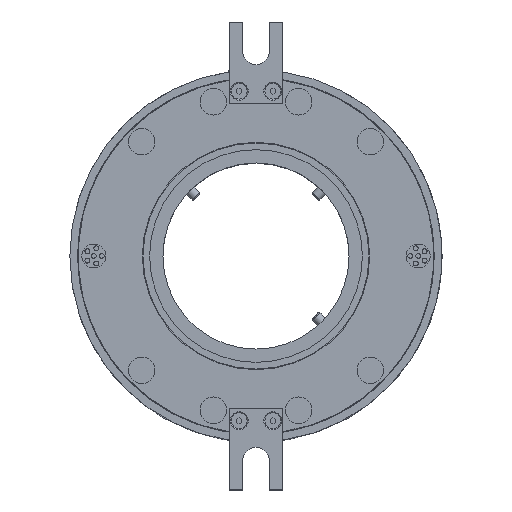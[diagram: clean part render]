
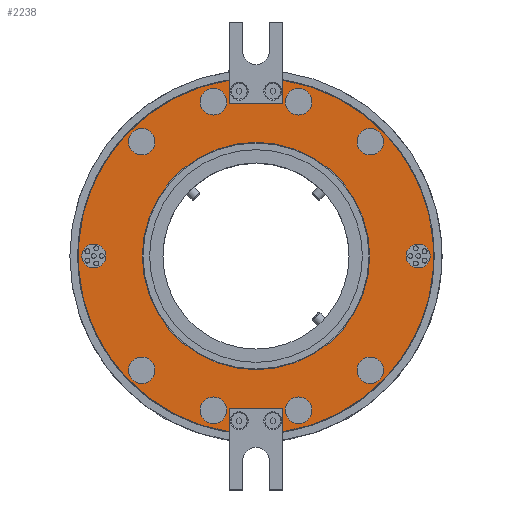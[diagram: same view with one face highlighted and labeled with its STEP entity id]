
A CAD part, top view. The second image highlights one B-rep face of the part: STEP entity #2238.
In plain terms, the highlighted planar face has unit normal (0, 0, 1).
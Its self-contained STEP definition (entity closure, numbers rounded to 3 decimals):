
#288=FACE_BOUND('',#5389,.T.);
#289=FACE_BOUND('',#5390,.T.);
#290=FACE_BOUND('',#5391,.T.);
#291=FACE_BOUND('',#5392,.T.);
#292=FACE_BOUND('',#5393,.T.);
#293=FACE_BOUND('',#5394,.T.);
#294=FACE_BOUND('',#5395,.T.);
#295=FACE_BOUND('',#5396,.T.);
#296=FACE_BOUND('',#5397,.T.);
#297=FACE_BOUND('',#5398,.T.);
#298=FACE_BOUND('',#5399,.T.);
#299=FACE_BOUND('',#5400,.T.);
#648=CIRCLE('',#17529,4.5);
#649=CIRCLE('',#17534,66.9);
#650=CIRCLE('',#17535,66.9);
#651=CIRCLE('',#17540,5.);
#652=CIRCLE('',#17542,5.);
#653=CIRCLE('',#17544,5.);
#654=CIRCLE('',#17546,5.);
#655=CIRCLE('',#17548,4.5);
#656=CIRCLE('',#17550,5.);
#657=CIRCLE('',#17552,5.);
#658=CIRCLE('',#17554,5.);
#659=CIRCLE('',#17556,5.);
#665=CIRCLE('',#17571,42.75);
#1112=PLANE('',#17572);
#1455=LINE('',#32270,#3586);
#1457=LINE('',#32274,#3588);
#1458=LINE('',#32276,#3589);
#1464=LINE('',#32289,#3595);
#1466=LINE('',#32293,#3597);
#1467=LINE('',#32295,#3598);
#2238=ADVANCED_FACE('',(#288,#289,#290,#291,#292,#293,#294,#295,#296,#297,
#298,#299),#1112,.T.);
#3586=VECTOR('',#19380,1.);
#3588=VECTOR('',#19384,1.);
#3589=VECTOR('',#19387,1.);
#3595=VECTOR('',#19401,1.);
#3597=VECTOR('',#19405,1.);
#3598=VECTOR('',#19408,1.);
#5389=EDGE_LOOP('',(#8370));
#5390=EDGE_LOOP('',(#8371));
#5391=EDGE_LOOP('',(#8372));
#5392=EDGE_LOOP('',(#8373));
#5393=EDGE_LOOP('',(#8374));
#5394=EDGE_LOOP('',(#8375));
#5395=EDGE_LOOP('',(#8376));
#5396=EDGE_LOOP('',(#8377));
#5397=EDGE_LOOP('',(#8378));
#5398=EDGE_LOOP('',(#8379,#8380,#8381,#8382,#8383,#8384,#8385,#8386));
#5399=EDGE_LOOP('',(#8387));
#5400=EDGE_LOOP('',(#8388));
#8370=ORIENTED_EDGE('',*,*,#14178,.T.);
#8371=ORIENTED_EDGE('',*,*,#14177,.T.);
#8372=ORIENTED_EDGE('',*,*,#14176,.T.);
#8373=ORIENTED_EDGE('',*,*,#14175,.T.);
#8374=ORIENTED_EDGE('',*,*,#14174,.T.);
#8375=ORIENTED_EDGE('',*,*,#14173,.T.);
#8376=ORIENTED_EDGE('',*,*,#14172,.T.);
#8377=ORIENTED_EDGE('',*,*,#14171,.T.);
#8378=ORIENTED_EDGE('',*,*,#14170,.T.);
#8379=ORIENTED_EDGE('',*,*,#14167,.F.);
#8380=ORIENTED_EDGE('',*,*,#14166,.F.);
#8381=ORIENTED_EDGE('',*,*,#14164,.F.);
#8382=ORIENTED_EDGE('',*,*,#14159,.F.);
#8383=ORIENTED_EDGE('',*,*,#14156,.F.);
#8384=ORIENTED_EDGE('',*,*,#14155,.F.);
#8385=ORIENTED_EDGE('',*,*,#14153,.F.);
#8386=ORIENTED_EDGE('',*,*,#14160,.F.);
#8387=ORIENTED_EDGE('',*,*,#14208,.F.);
#8388=ORIENTED_EDGE('',*,*,#14149,.T.);
#11884=VERTEX_POINT('',#32147);
#11885=VERTEX_POINT('',#32148);
#11890=VERTEX_POINT('',#32161);
#11891=VERTEX_POINT('',#32162);
#11924=VERTEX_POINT('',#32263);
#11925=VERTEX_POINT('',#32266);
#11927=VERTEX_POINT('',#32273);
#11929=VERTEX_POINT('',#32285);
#11931=VERTEX_POINT('',#32292);
#11933=VERTEX_POINT('',#32301);
#11934=VERTEX_POINT('',#32304);
#11935=VERTEX_POINT('',#32307);
#11936=VERTEX_POINT('',#32310);
#11937=VERTEX_POINT('',#32313);
#11938=VERTEX_POINT('',#32316);
#11939=VERTEX_POINT('',#32319);
#11940=VERTEX_POINT('',#32322);
#11941=VERTEX_POINT('',#32325);
#11967=VERTEX_POINT('',#32390);
#14149=EDGE_CURVE('',#11924,#11924,#648,.T.);
#14153=EDGE_CURVE('',#11884,#11925,#1455,.T.);
#14155=EDGE_CURVE('',#11925,#11927,#1457,.T.);
#14156=EDGE_CURVE('',#11927,#11885,#1458,.T.);
#14159=EDGE_CURVE('',#11885,#11890,#649,.T.);
#14160=EDGE_CURVE('',#11891,#11884,#650,.T.);
#14164=EDGE_CURVE('',#11890,#11929,#1464,.T.);
#14166=EDGE_CURVE('',#11929,#11931,#1466,.T.);
#14167=EDGE_CURVE('',#11931,#11891,#1467,.T.);
#14170=EDGE_CURVE('',#11933,#11933,#651,.T.);
#14171=EDGE_CURVE('',#11934,#11934,#652,.T.);
#14172=EDGE_CURVE('',#11935,#11935,#653,.T.);
#14173=EDGE_CURVE('',#11936,#11936,#654,.T.);
#14174=EDGE_CURVE('',#11937,#11937,#655,.T.);
#14175=EDGE_CURVE('',#11938,#11938,#656,.T.);
#14176=EDGE_CURVE('',#11939,#11939,#657,.T.);
#14177=EDGE_CURVE('',#11940,#11940,#658,.T.);
#14178=EDGE_CURVE('',#11941,#11941,#659,.T.);
#14208=EDGE_CURVE('',#11967,#11967,#665,.T.);
#17529=AXIS2_PLACEMENT_3D('',#32262,#19373,#19374);
#17534=AXIS2_PLACEMENT_3D('',#32281,#19392,#19393);
#17535=AXIS2_PLACEMENT_3D('',#32282,#19394,#19395);
#17540=AXIS2_PLACEMENT_3D('',#32300,#19413,#19414);
#17542=AXIS2_PLACEMENT_3D('',#32303,#19417,#19418);
#17544=AXIS2_PLACEMENT_3D('',#32306,#19421,#19422);
#17546=AXIS2_PLACEMENT_3D('',#32309,#19425,#19426);
#17548=AXIS2_PLACEMENT_3D('',#32312,#19429,#19430);
#17550=AXIS2_PLACEMENT_3D('',#32315,#19433,#19434);
#17552=AXIS2_PLACEMENT_3D('',#32318,#19437,#19438);
#17554=AXIS2_PLACEMENT_3D('',#32321,#19441,#19442);
#17556=AXIS2_PLACEMENT_3D('',#32324,#19445,#19446);
#17571=AXIS2_PLACEMENT_3D('',#32389,#19499,#19500);
#17572=AXIS2_PLACEMENT_3D('',#32391,#19501,#19502);
#19373=DIRECTION('',(0.,0.,-1.));
#19374=DIRECTION('',(-1.,0.,0.));
#19380=DIRECTION('',(0.,-1.,0.));
#19384=DIRECTION('',(1.,0.,0.));
#19387=DIRECTION('',(0.,1.,0.));
#19392=DIRECTION('',(0.,0.,-1.));
#19393=DIRECTION('',(1.,0.,0.));
#19394=DIRECTION('',(0.,0.,-1.));
#19395=DIRECTION('',(1.,0.,0.));
#19401=DIRECTION('',(0.,1.,0.));
#19405=DIRECTION('',(-1.,0.,0.));
#19408=DIRECTION('',(0.,-1.,0.));
#19413=DIRECTION('',(0.,0.,-1.));
#19414=DIRECTION('',(-1.,0.,0.));
#19417=DIRECTION('',(0.,0.,-1.));
#19418=DIRECTION('',(-1.,0.,0.));
#19421=DIRECTION('',(0.,0.,-1.));
#19422=DIRECTION('',(-1.,0.,0.));
#19425=DIRECTION('',(0.,0.,-1.));
#19426=DIRECTION('',(-1.,0.,0.));
#19429=DIRECTION('',(0.,0.,-1.));
#19430=DIRECTION('',(1.,0.,0.));
#19433=DIRECTION('',(0.,0.,-1.));
#19434=DIRECTION('',(-1.,0.,0.));
#19437=DIRECTION('',(0.,0.,-1.));
#19438=DIRECTION('',(-1.,0.,0.));
#19441=DIRECTION('',(0.,0.,-1.));
#19442=DIRECTION('',(-1.,0.,0.));
#19445=DIRECTION('',(0.,0.,-1.));
#19446=DIRECTION('',(-1.,0.,0.));
#19499=DIRECTION('',(0.,0.,1.));
#19500=DIRECTION('',(1.,0.,0.));
#19501=DIRECTION('',(0.,0.,1.));
#19502=DIRECTION('',(1.,0.,0.));
#32147=CARTESIAN_POINT('',(-10.,66.148,90.5));
#32148=CARTESIAN_POINT('',(10.,66.148,90.5));
#32161=CARTESIAN_POINT('',(10.,-66.148,90.5));
#32162=CARTESIAN_POINT('',(-10.,-66.148,90.5));
#32262=CARTESIAN_POINT('',(61.,0.,90.5));
#32263=CARTESIAN_POINT('',(56.5,0.,90.5));
#32266=CARTESIAN_POINT('',(-10.,57.5,90.5));
#32270=CARTESIAN_POINT('',(-10.,72.75,90.5));
#32273=CARTESIAN_POINT('',(10.,57.5,90.5));
#32274=CARTESIAN_POINT('',(0.,57.5,90.5));
#32276=CARTESIAN_POINT('',(10.,72.75,90.5));
#32281=CARTESIAN_POINT('',(0.,0.,90.5));
#32282=CARTESIAN_POINT('',(0.,0.,90.5));
#32285=CARTESIAN_POINT('',(10.,-57.5,90.5));
#32289=CARTESIAN_POINT('',(10.,-72.75,90.5));
#32292=CARTESIAN_POINT('',(-10.,-57.5,90.5));
#32293=CARTESIAN_POINT('',(0.,-57.5,90.5));
#32295=CARTESIAN_POINT('',(-10.,-72.75,90.5));
#32300=CARTESIAN_POINT('',(43.,-43.,90.5));
#32301=CARTESIAN_POINT('',(38.,-43.,90.5));
#32303=CARTESIAN_POINT('',(16.,-58.,90.5));
#32304=CARTESIAN_POINT('',(11.,-58.,90.5));
#32306=CARTESIAN_POINT('',(-16.,-58.,90.5));
#32307=CARTESIAN_POINT('',(-21.,-58.,90.5));
#32309=CARTESIAN_POINT('',(-43.,-43.,90.5));
#32310=CARTESIAN_POINT('',(-48.,-43.,90.5));
#32312=CARTESIAN_POINT('',(-61.,0.,90.5));
#32313=CARTESIAN_POINT('',(-56.5,0.,90.5));
#32315=CARTESIAN_POINT('',(-43.,43.,90.5));
#32316=CARTESIAN_POINT('',(-48.,43.,90.5));
#32318=CARTESIAN_POINT('',(43.,43.,90.5));
#32319=CARTESIAN_POINT('',(38.,43.,90.5));
#32321=CARTESIAN_POINT('',(16.,58.,90.5));
#32322=CARTESIAN_POINT('',(11.,58.,90.5));
#32324=CARTESIAN_POINT('',(-16.,58.,90.5));
#32325=CARTESIAN_POINT('',(-21.,58.,90.5));
#32389=CARTESIAN_POINT('',(0.,0.,90.5));
#32390=CARTESIAN_POINT('',(42.75,0.,90.5));
#32391=CARTESIAN_POINT('',(0.,0.,90.5));
